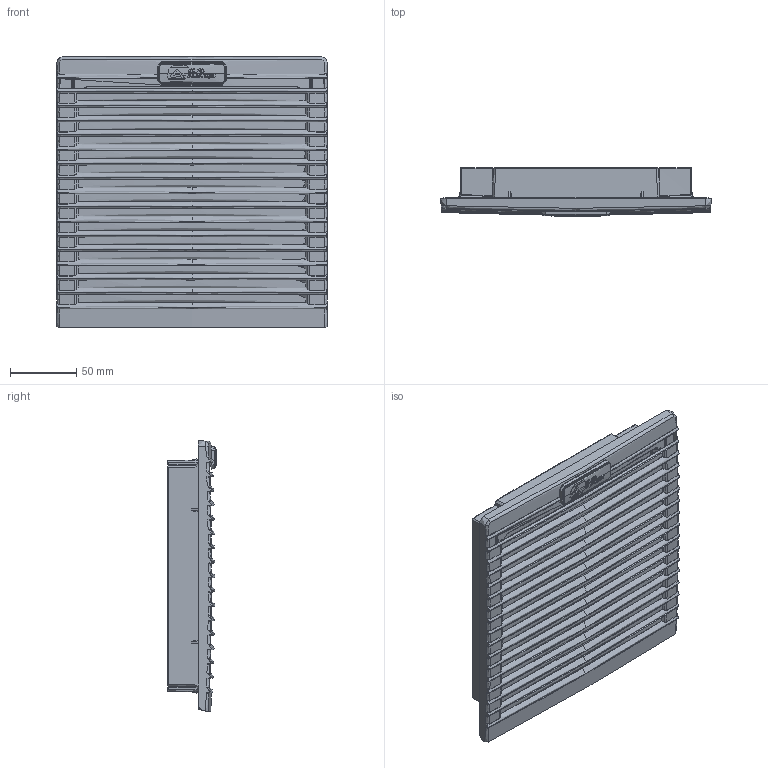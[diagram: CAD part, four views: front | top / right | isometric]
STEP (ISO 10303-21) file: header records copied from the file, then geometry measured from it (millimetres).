
FILE_DESCRIPTION(/* description */ (''),/* implementation_level */ '2;1');
FILE_NAME(/* name */ 'ATV300~1',/* time_stamp */ '2019-02-07T17:00:41+01:00',/* author */ (''),/* organization */ (''),/* preprocessor_version */ 'ST-DEVELOPER v16.5',/* originating_system */ '',/* authorisation */ '');
FILE_SCHEMA (('AUTOMOTIVE_DESIGN'));
Products named in the file (1): Document
Bounding box: 204 x 36.93 x 204 mm (x, y, z)
Surface area: 240309.7 mm2 (no closed solid volume)
Topology: 0 solids, 3014 shells, 3018 faces, 14585 edges, 14412 vertices
Faces by surface type: bspline 2550, plane 468
Entity records: 309611 total; most frequent: CARTESIAN_POINT 213323, ORIENTED_EDGE 14483, EDGE_CURVE 14419, VERTEX_POINT 14414, B_SPLINE_CURVE_WITH_KNOTS 12989, EDGE_LOOP 3046, ADVANCED_FACE 3018, FACE_OUTER_BOUND 3018
